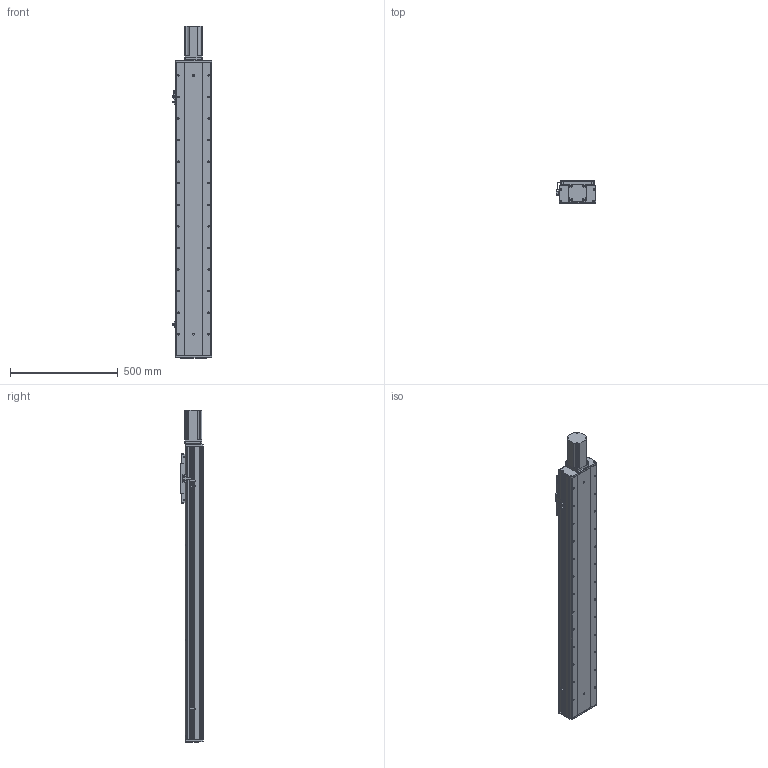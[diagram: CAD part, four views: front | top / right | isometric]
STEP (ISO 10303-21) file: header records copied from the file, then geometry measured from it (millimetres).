
FILE_DESCRIPTION (( 'STEP AP203' ), '1' );
FILE_NAME ('RY170F-L2020-300-MK.SLDASM_1050.step', '2021-03-02T06:31:53', ( '盈信电脑' ), ( '东莞市道滘镇水果街19号' ), 'SwSTEP 2.0', 'SolidWorks 2012', '' );
FILE_SCHEMA (( 'CONFIG_CONTROL_DESIGN' ));
Products named in the file (22): RY170F-L2020-300-MK.SLDASM_1050; 覜茼ん674; 侐源滅袉蝶; 怢湛750W萇儂ㄗ80遺ㄘ; 750W萇儂梓袧蛌諉啣; RY170F-詩湍揤踡輸; RY170F-揤踡謫假蚾粣; RY170F俋离覜茼え; 滅袉蝶18-24; 滅袉蝶18-10; RY100F-詩湍揤踡謫; RY170F-后盖板(铝件）; 覜茼ん672; RY170F-丝杆铝滑块连接板; 15; 侂狟400W侜督萇儂; RY170F-直连前盖板(铝件）; RY170F-300眻蟀倰第奻裔啣-MK_1050; RY170F-滅鳥奻裔; RY170F-佪裝臏賑輸20蹟譫; RY170F-300眻蟀倰第菁釱-MK_1050; RY170F-300眻蟀祥凄詩湍-MK_1050
Assembly tree (26 placements, depth 3):
  RY170F-L2020-300-MK.SLDASM_1050
    RY170F-300眻蟀倰第菁釱-MK_1050
    RY170F-300眻蟀祥凄詩湍-MK_1050
    RY170F-300眻蟀倰第奻裔啣-MK_1050  x2
    RY170F-滅鳥奻裔
    RY170F-佪裝臏賑輸20蹟譫
    RY170F-丝杆铝滑块连接板
    侂狟400W侜督萇儂
      15
    RY170F-直连前盖板(铝件）
    滅袉蝶18-10
    RY100F-詩湍揤踡謫
    RY170F-后盖板(铝件）
    覜茼ん672  x3
    RY170F俋离覜茼え
    RY170F-揤踡謫假蚾粣
    RY170F-詩湍揤踡輸  x2
    滅袉蝶18-24
    750W萇儂梓袧蛌諉啣
    怢湛750W萇儂ㄗ80遺ㄘ
    侐源滅袉蝶  x2
    覜茼ん674
Bounding box: 183.7 x 107 x 1539 mm (x, y, z)
Volume: 7895118.4 mm3; surface area: 2510994 mm2
Topology: 25 solids, 25 shells, 2312 faces, 6359 edges, 4054 vertices
Faces by surface type: cylinder 1037, plane 1001, cone 256, bspline 18
Entity records: 67711 total; most frequent: CARTESIAN_POINT 13293, DIRECTION 11165, ORIENTED_EDGE 10622, EDGE_CURVE 5311, AXIS2_PLACEMENT_3D 3992, VERTEX_POINT 3474, VECTOR 3181, LINE 3181
